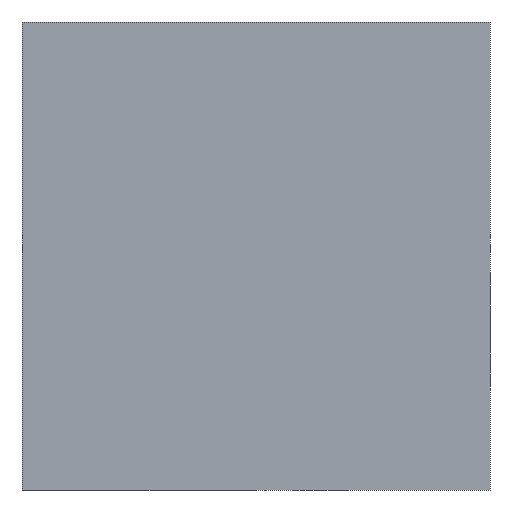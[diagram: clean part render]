
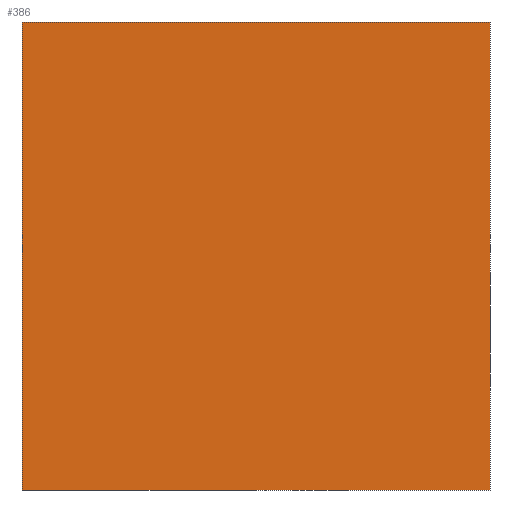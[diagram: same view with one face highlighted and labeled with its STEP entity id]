
A CAD part, left-side view. The second image highlights one B-rep face of the part: STEP entity #386.
In plain terms, the highlighted planar face has unit normal (-1, 0, 0).
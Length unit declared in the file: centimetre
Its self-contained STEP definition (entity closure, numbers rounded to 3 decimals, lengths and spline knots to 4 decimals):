
#17 = LINE ( 'NONE', #428, #62 ) ;
#53 = VERTEX_POINT ( 'NONE', #58 ) ;
#58 = CARTESIAN_POINT ( 'NONE',  ( 0., 0., 0. ) ) ;
#62 = VECTOR ( 'NONE', #165, 100. ) ;
#78 = ORIENTED_EDGE ( 'NONE', *, *, #111, .T. ) ;
#103 = EDGE_CURVE ( 'NONE', #472, #53, #17, .T. ) ;
#109 = LINE ( 'NONE', #246, #243 ) ;
#111 = EDGE_CURVE ( 'NONE', #222, #53, #129, .T. ) ;
#127 = VERTEX_POINT ( 'NONE', #362 ) ;
#129 = LINE ( 'NONE', #207, #304 ) ;
#131 = VECTOR ( 'NONE', #178, 100. ) ;
#165 = DIRECTION ( 'NONE',  ( 0., 0., -1. ) ) ;
#178 = DIRECTION ( 'NONE',  ( 0., 0., -1. ) ) ;
#179 = ORIENTED_EDGE ( 'NONE', *, *, #256, .T. ) ;
#188 = DIRECTION ( 'NONE',  ( 0., 0., -1. ) ) ;
#190 = CARTESIAN_POINT ( 'NONE',  ( 0., 1000., 1000. ) ) ;
#206 = ORIENTED_EDGE ( 'NONE', *, *, #296, .F. ) ;
#207 = CARTESIAN_POINT ( 'NONE',  ( 0., 1000., 0. ) ) ;
#222 = VERTEX_POINT ( 'NONE', #446 ) ;
#237 = DIRECTION ( 'NONE',  ( 0., -1., 0. ) ) ;
#243 = VECTOR ( 'NONE', #352, 100. ) ;
#246 = CARTESIAN_POINT ( 'NONE',  ( 0., 1000., 1000. ) ) ;
#251 = ORIENTED_EDGE ( 'NONE', *, *, #103, .F. ) ;
#256 = EDGE_CURVE ( 'NONE', #127, #222, #396, .T. ) ;
#263 = DIRECTION ( 'NONE',  ( 1., 0., 0. ) ) ;
#296 = EDGE_CURVE ( 'NONE', #127, #472, #109, .T. ) ;
#297 = FACE_OUTER_BOUND ( 'NONE', #390, .T. ) ;
#304 = VECTOR ( 'NONE', #237, 100. ) ;
#352 = DIRECTION ( 'NONE',  ( 0., -1., 0. ) ) ;
#362 = CARTESIAN_POINT ( 'NONE',  ( 0., 1000., 1000. ) ) ;
#376 = PLANE ( 'NONE',  #448 ) ;
#386 = ADVANCED_FACE ( 'NONE', ( #297 ), #376, .F. ) ;
#390 = EDGE_LOOP ( 'NONE', ( #78, #251, #206, #179 ) ) ;
#396 = LINE ( 'NONE', #482, #131 ) ;
#428 = CARTESIAN_POINT ( 'NONE',  ( 0., 0., 1000. ) ) ;
#429 = CARTESIAN_POINT ( 'NONE',  ( 0., 0., 1000. ) ) ;
#446 = CARTESIAN_POINT ( 'NONE',  ( 0., 1000., 0. ) ) ;
#448 = AXIS2_PLACEMENT_3D ( 'NONE', #190, #263, #188 ) ;
#472 = VERTEX_POINT ( 'NONE', #429 ) ;
#482 = CARTESIAN_POINT ( 'NONE',  ( 0., 1000., 1000. ) ) ;
